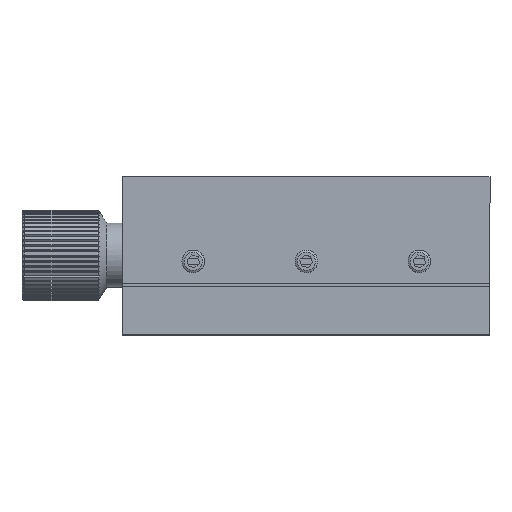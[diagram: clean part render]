
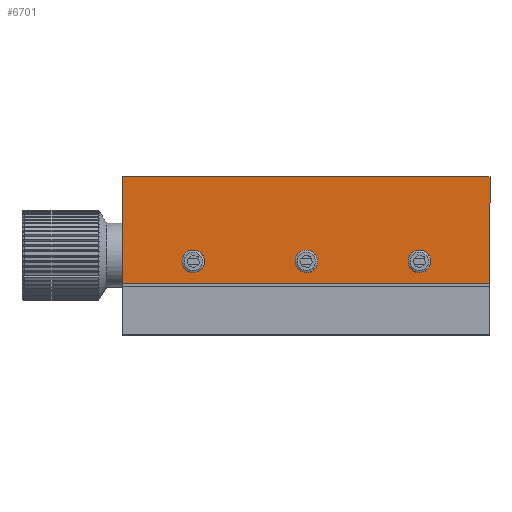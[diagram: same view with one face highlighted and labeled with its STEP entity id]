
A CAD part, top view. The second image highlights one B-rep face of the part: STEP entity #6701.
In plain terms, the highlighted planar face has unit normal (0, 0, 1).
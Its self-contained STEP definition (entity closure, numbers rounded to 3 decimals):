
#1098 = CARTESIAN_POINT ( 'NONE',  ( 23.8, 24.227, 21.1 ) ) ;
#1101 = CARTESIAN_POINT ( 'NONE',  ( -41.2, 24.227, 21.1 ) ) ;
#1102 = DIRECTION ( 'NONE',  ( 1., 0., 0. ) ) ;
#1110 = DIRECTION ( 'NONE',  ( 0., 1., 0. ) ) ;
#1112 = CARTESIAN_POINT ( 'NONE',  ( -41.2, 5.227, 21.1 ) ) ;
#1123 = CARTESIAN_POINT ( 'NONE',  ( -28.7, 9.227, 21.1 ) ) ;
#1124 = DIRECTION ( 'NONE',  ( 0., 0., -1. ) ) ;
#1125 = DIRECTION ( 'NONE',  ( 1., 0., 0. ) ) ;
#1127 = DIRECTION ( 'NONE',  ( 1., 0., 0. ) ) ;
#1137 = CARTESIAN_POINT ( 'NONE',  ( 11.3, 9.227, 21.1 ) ) ;
#1138 = DIRECTION ( 'NONE',  ( 0., 0., -1. ) ) ;
#1139 = DIRECTION ( 'NONE',  ( 1., 0., 0. ) ) ;
#1141 = CARTESIAN_POINT ( 'NONE',  ( -8.7, 9.227, 21.1 ) ) ;
#1142 = DIRECTION ( 'NONE',  ( 0., 0., -1. ) ) ;
#1143 = DIRECTION ( 'NONE',  ( 1., 0., 0. ) ) ;
#1524 = CARTESIAN_POINT ( 'NONE',  ( -26.7, 9.227, 21.1 ) ) ;
#1527 = CARTESIAN_POINT ( 'NONE',  ( 13.3, 9.227, 21.1 ) ) ;
#1528 = CARTESIAN_POINT ( 'NONE',  ( -6.7, 9.227, 21.1 ) ) ;
#3681 = VERTEX_POINT ( 'NONE', #12080 ) ;
#3862 = DIRECTION ( 'NONE',  ( 0., 0., -1. ) ) ;
#3864 = CARTESIAN_POINT ( 'NONE',  ( -41.2, 24.227, 21.1 ) ) ;
#3866 = PLANE ( 'NONE',  #16562 ) ;
#3867 = DIRECTION ( 'NONE',  ( 1., 0., 0. ) ) ;
#4505 = EDGE_CURVE ( 'NONE', #3681, #13469, #5811, .T. ) ;
#5808 = VECTOR ( 'NONE', #14834, 1000. ) ;
#5811 = LINE ( 'NONE', #14833, #5808 ) ;
#6701 = ADVANCED_FACE ( 'NONE', ( #9919, #9914, #9928, #9927 ), #3866, .F. ) ;
#7650 = VERTEX_POINT ( 'NONE', #1528 ) ;
#7651 = VERTEX_POINT ( 'NONE', #1527 ) ;
#7654 = VERTEX_POINT ( 'NONE', #1524 ) ;
#8735 = CARTESIAN_POINT ( 'NONE',  ( 23.8, 5.227, 21.1 ) ) ;
#8737 = CARTESIAN_POINT ( 'NONE',  ( -41.2, 24.227, 21.1 ) ) ;
#8740 = CARTESIAN_POINT ( 'NONE',  ( 23.8, 24.227, 21.1 ) ) ;
#8755 = CIRCLE ( 'NONE', #16876, 2. ) ;
#8759 = CIRCLE ( 'NONE', #16875, 2. ) ;
#8763 = VECTOR ( 'NONE', #1127, 1000. ) ;
#8765 = LINE ( 'NONE', #1112, #8763 ) ;
#8766 = CIRCLE ( 'NONE', #16872, 2. ) ;
#8771 = VECTOR ( 'NONE', #1110, 1000. ) ;
#8775 = LINE ( 'NONE', #1098, #8771 ) ;
#8776 = VECTOR ( 'NONE', #1102, 1000. ) ;
#8779 = LINE ( 'NONE', #1101, #8776 ) ;
#9914 = FACE_BOUND ( 'NONE', #12810, .T. ) ;
#9919 = FACE_BOUND ( 'NONE', #12790, .T. ) ;
#9927 = FACE_OUTER_BOUND ( 'NONE', #12803, .T. ) ;
#9928 = FACE_BOUND ( 'NONE', #12782, .T. ) ;
#12080 = CARTESIAN_POINT ( 'NONE',  ( -41.2, 5.227, 21.1 ) ) ;
#12782 = EDGE_LOOP ( 'NONE', ( #14065 ) ) ;
#12790 = EDGE_LOOP ( 'NONE', ( #14067 ) ) ;
#12803 = EDGE_LOOP ( 'NONE', ( #14060, #14063, #14058, #14061 ) ) ;
#12810 = EDGE_LOOP ( 'NONE', ( #14062 ) ) ;
#13467 = VERTEX_POINT ( 'NONE', #8735 ) ;
#13469 = VERTEX_POINT ( 'NONE', #8737 ) ;
#13472 = VERTEX_POINT ( 'NONE', #8740 ) ;
#14058 = ORIENTED_EDGE ( 'NONE', *, *, #4505, .F. ) ;
#14060 = ORIENTED_EDGE ( 'NONE', *, *, #15884, .T. ) ;
#14061 = ORIENTED_EDGE ( 'NONE', *, *, #15891, .T. ) ;
#14062 = ORIENTED_EDGE ( 'NONE', *, *, #15896, .T. ) ;
#14063 = ORIENTED_EDGE ( 'NONE', *, *, #15881, .F. ) ;
#14065 = ORIENTED_EDGE ( 'NONE', *, *, #15895, .T. ) ;
#14067 = ORIENTED_EDGE ( 'NONE', *, *, #15889, .T. ) ;
#14833 = CARTESIAN_POINT ( 'NONE',  ( -41.2, 24.227, 21.1 ) ) ;
#14834 = DIRECTION ( 'NONE',  ( 0., 1., 0. ) ) ;
#15881 = EDGE_CURVE ( 'NONE', #13469, #13472, #8779, .T. ) ;
#15884 = EDGE_CURVE ( 'NONE', #13467, #13472, #8775, .T. ) ;
#15889 = EDGE_CURVE ( 'NONE', #7654, #7654, #8766, .T. ) ;
#15891 = EDGE_CURVE ( 'NONE', #3681, #13467, #8765, .T. ) ;
#15895 = EDGE_CURVE ( 'NONE', #7651, #7651, #8759, .T. ) ;
#15896 = EDGE_CURVE ( 'NONE', #7650, #7650, #8755, .T. ) ;
#16562 = AXIS2_PLACEMENT_3D ( 'NONE', #3864, #3862, #3867 ) ;
#16872 = AXIS2_PLACEMENT_3D ( 'NONE', #1123, #1124, #1125 ) ;
#16875 = AXIS2_PLACEMENT_3D ( 'NONE', #1137, #1138, #1139 ) ;
#16876 = AXIS2_PLACEMENT_3D ( 'NONE', #1141, #1142, #1143 ) ;
